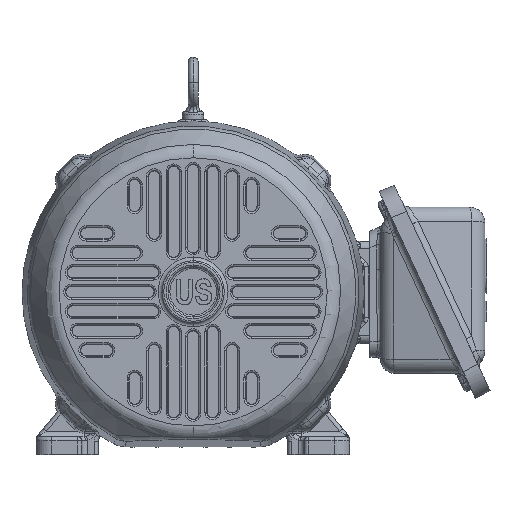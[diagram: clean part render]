
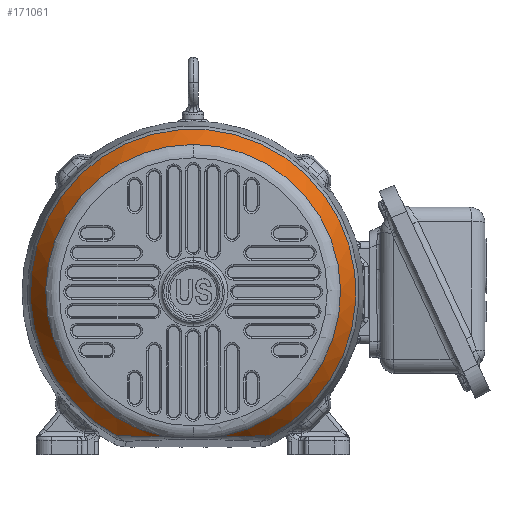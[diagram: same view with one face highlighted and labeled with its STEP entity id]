
A CAD part, top view. The second image highlights one B-rep face of the part: STEP entity #171061.
In plain terms, the highlighted conical face has half-angle 30 degrees and reference radius 127.442 mm.
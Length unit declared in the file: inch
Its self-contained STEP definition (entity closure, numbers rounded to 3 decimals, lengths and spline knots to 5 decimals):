
#165378=CARTESIAN_POINT('',(0.,0.,-3.58064));
#165379=DIRECTION('',(0.,0.,-1.));
#165380=DIRECTION('',(-0.467,-0.884,0.));
#165381=AXIS2_PLACEMENT_3D('',#165378,#165379,#165380);
#165388=CARTESIAN_POINT('',(2.46057,-4.65521,
-3.58064));
#165389=CARTESIAN_POINT('',(2.37516,-4.65602,
-3.64852));
#165390=CARTESIAN_POINT('',(2.20841,-4.65777,
-3.77511));
#165391=CARTESIAN_POINT('',(1.97108,-4.66053,
-3.93882));
#165392=CARTESIAN_POINT('',(1.74545,-4.66329,
-4.07891));
#165393=CARTESIAN_POINT('',(1.53163,-4.66591,
-4.19719));
#165394=CARTESIAN_POINT('',(1.32924,-4.66834,
-4.29567));
#165395=CARTESIAN_POINT('',(1.13806,-4.67035,
-4.37674));
#165396=CARTESIAN_POINT('',(1.01608,-4.67187,
-4.42024));
#165397=CARTESIAN_POINT('',(0.95706,-4.67243,
-4.43982));
#165399=CARTESIAN_POINT('',(-0.95753,-4.67223,
-4.44));
#165400=CARTESIAN_POINT('',(-1.04224,-4.67143,
-4.4119));
#165401=CARTESIAN_POINT('',(-1.218,-4.66961,
-4.34635));
#165402=CARTESIAN_POINT('',(-1.50186,-4.66629,
-4.21482));
#165403=CARTESIAN_POINT('',(-1.8046,-4.66255,
-4.04611));
#165404=CARTESIAN_POINT('',(-2.1246,-4.65869,
-3.83718));
#165405=CARTESIAN_POINT('',(-2.3469,-4.65629,
-3.67099));
#165406=CARTESIAN_POINT('',(-2.46057,-4.65521,
-3.58064));
#165408=CARTESIAN_POINT('',(0.,0.,-4.44));
#165409=DIRECTION('',(0.,0.,1.));
#165410=DIRECTION('',(0.,1.,0.));
#165411=AXIS2_PLACEMENT_3D('',#165408,#165409,#165410);
#165413=CARTESIAN_POINT('',(0.,0.,-4.44));
#165414=DIRECTION('',(0.,0.,-1.));
#165415=DIRECTION('',(0.,1.,0.));
#165416=AXIS2_PLACEMENT_3D('',#165413,#165414,#165415);
#169579=CARTESIAN_POINT('',(0.,4.76934,-4.44));
#169581=VERTEX_POINT('',#169579);
#169926=VERTEX_POINT('',#165388);
#169927=VERTEX_POINT('',#165397);
#170403=CARTESIAN_POINT('',(-2.46057,-4.65521,
-3.58064));
#170404=VERTEX_POINT('',#170403);
#170517=VERTEX_POINT('',#165399);
#171047=CARTESIAN_POINT('',(0.,0.,-4.01032));
#171048=DIRECTION('',(0.,0.,1.));
#171049=DIRECTION('',(0.,1.,0.));
#171050=AXIS2_PLACEMENT_3D('',#171047,#171048,#171049);
#171051=CONICAL_SURFACE('',#171050,5.01741,30.);
#171053=ORIENTED_EDGE('',*,*,#171052,.F.);
#171054=ORIENTED_EDGE('',*,*,#171038,.F.);
#171055=ORIENTED_EDGE('',*,*,#171014,.F.);
#171056=ORIENTED_EDGE('',*,*,#170902,.F.);
#171058=ORIENTED_EDGE('',*,*,#171057,.T.);
#171059=EDGE_LOOP('',(#171053,#171054,#171055,#171056,#171058));
#171060=FACE_OUTER_BOUND('',#171059,.F.);
#171061=ADVANCED_FACE('',(#171060),#171051,.T.);
#165382=CIRCLE('',#165381,5.26549);
#165398=B_SPLINE_CURVE_WITH_KNOTS('',3,(#165388,#165389,#165390,#165391,#165392,
#165393,#165394,#165395,#165396,#165397),.UNSPECIFIED.,.F.,.F.,(4,1,1,1,1,1,1,
4),(0.,0.14286,0.28571,0.42857,
0.57143,0.71429,0.85714,1.),.UNSPECIFIED.);
#165407=B_SPLINE_CURVE_WITH_KNOTS('',3,(#165399,#165400,#165401,#165402,#165403,
#165404,#165405,#165406),.UNSPECIFIED.,.F.,.F.,(4,1,1,1,1,4),(0.,0.2,0.4,
0.6,0.8,1.),.UNSPECIFIED.);
#165412=CIRCLE('',#165411,4.76934);
#165417=CIRCLE('',#165416,4.76934);
#170902=EDGE_CURVE('',#169581,#170517,#165412,.T.);
#171014=EDGE_CURVE('',#170517,#170404,#165407,.T.);
#171038=EDGE_CURVE('',#170404,#169926,#165382,.T.);
#171052=EDGE_CURVE('',#169926,#169927,#165398,.T.);
#171057=EDGE_CURVE('',#169581,#169927,#165417,.T.);
